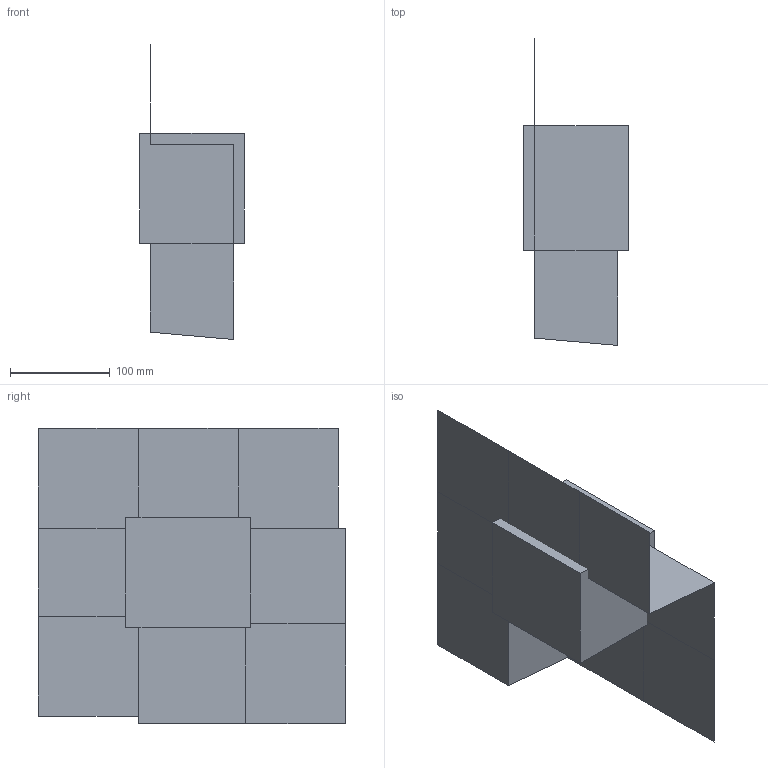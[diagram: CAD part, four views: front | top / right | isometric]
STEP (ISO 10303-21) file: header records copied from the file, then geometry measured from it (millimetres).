
FILE_DESCRIPTION(('CATIA V5 STEP Exchange'),'2;1');
FILE_NAME('C:\_Andres\UNIVERSIDAD\IQS\ASIGNATURAS\DAO\EXF\EXF-15161c\1original\Massaneda_Tuneu_Ej02-moldes_v15.stp','2016-03-04T15:45:39+00:00',('none'),('none'),'CATIA Version 5 Release 20 SP 1 (IN-10)','CATIA V5 STEP AP203','none');
FILE_SCHEMA(('CONFIG_CONTROL_DESIGN'));
Length unit declared in the file: millimetre
Products named in the file (1): Massaneda_Tuneu_Ej02-moldes_v15
Bounding box: 105 x 307.35 x 295.35 mm (x, y, z)
Volume: 3061754.5 mm3; surface area: 353089.6 mm2
Topology: 3 solids, 7 shells, 45 faces, 118 edges, 83 vertices
Faces by surface type: plane 41, cylinder 4
Entity records: 1101 total; most frequent: ORIENTED_EDGE 198, CARTESIAN_POINT 179, DIRECTION 147, EDGE_CURVE 83, VECTOR 73, LINE 73, VERTEX_POINT 56, EDGE_LOOP 49
